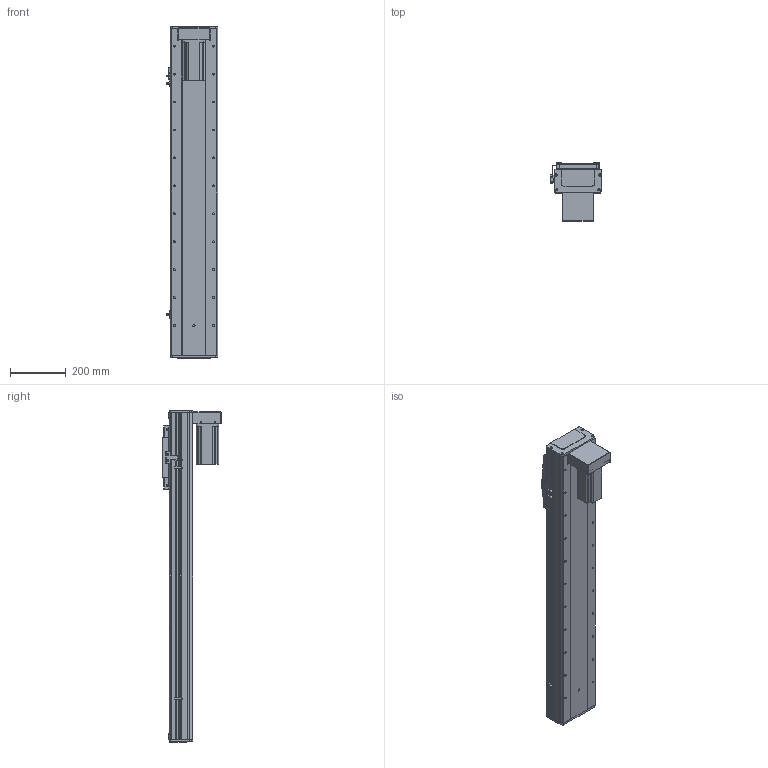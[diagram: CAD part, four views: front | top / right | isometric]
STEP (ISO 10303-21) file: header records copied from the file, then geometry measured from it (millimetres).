
FILE_DESCRIPTION (( 'STEP AP203' ), '1' );
FILE_NAME ('RY170F-L2010-300-BK.SLDASM_850.step', '2021-03-02T08:56:06', ( '盈信电脑' ), ( '东莞市道滘镇水果街19号' ), 'SwSTEP 2.0', 'SolidWorks 2012', '' );
FILE_SCHEMA (( 'CONFIG_CONTROL_DESIGN' ));
Length unit declared in the file: millimetre
Products named in the file (20): 怢湛750W萇儂ㄗ80遺ㄘ; RY170F-L2010-300-BK.SLDASM_850; RY170狟殏詩湍假蚾輸; RY170F狟殏萇儂欶; 侐源滅袉蝶; 滅袉蝶18-24; RY170F-狟殏萇儂假蚾啣(750W); RY170F-揤踡謫假蚾粣; RY170F俋离覜茼え; RY170F-詩湍揤踡輸; 覜茼ん672; RY100F-詩湍揤踡謫; 滅袉蝶18-10; RY170F-丝杆铝滑块连接板; RY170F-綴裔啣; RY170F-300眻蟀倰第菁釱-BK_850; RY170F-300眻蟀倰第奻裔啣-BK_850; RY170F-滅鳥奻裔; RY170F-佪裝臏賑輸20蹟譫; RY170F-300眻蟀祥凄詩湍-MK_850
Assembly tree (25 placements, depth 2):
  RY170F-L2010-300-BK.SLDASM_850
    RY170F-300眻蟀祥凄詩湍-MK_850
    RY170F-300眻蟀倰第奻裔啣-BK_850  x2
    RY170F-滅鳥奻裔
    RY170F-300眻蟀倰第菁釱-BK_850
    RY170F-佪裝臏賑輸20蹟譫
    RY170F-丝杆铝滑块连接板
    滅袉蝶18-10
    RY100F-詩湍揤踡謫
    RY170F-綴裔啣  x2
    覜茼ん672  x3
    RY170F俋离覜茼え
    RY170F-揤踡謫假蚾粣
    RY170F-詩湍揤踡輸  x2
    滅袉蝶18-24
    侐源滅袉蝶  x2
    RY170F-狟殏萇儂假蚾啣(750W)
    怢湛750W萇儂ㄗ80遺ㄘ
    RY170F狟殏萇儂欶
    RY170狟殏詩湍假蚾輸
Bounding box: 183.7 x 208 x 1188 mm (x, y, z)
Volume: 6874808.5 mm3; surface area: 2257619.3 mm2
Topology: 25 solids, 25 shells, 1878 faces, 5189 edges, 3286 vertices
Faces by surface type: cylinder 896, plane 762, cone 216, bspline 4
Entity records: 52468 total; most frequent: CARTESIAN_POINT 10434, DIRECTION 8542, ORIENTED_EDGE 8102, EDGE_CURVE 4051, AXIS2_PLACEMENT_3D 3090, VERTEX_POINT 2642, VECTOR 2362, LINE 2362
